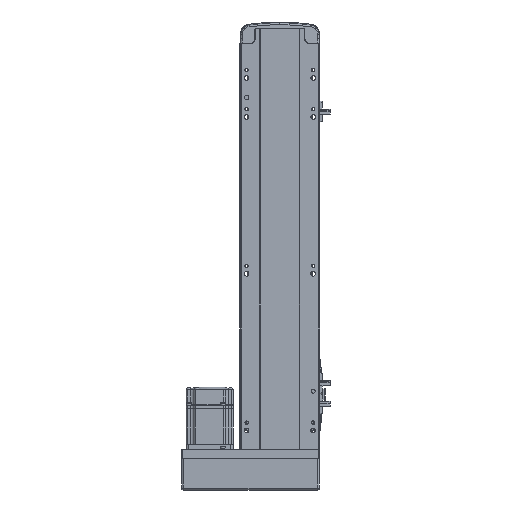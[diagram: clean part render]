
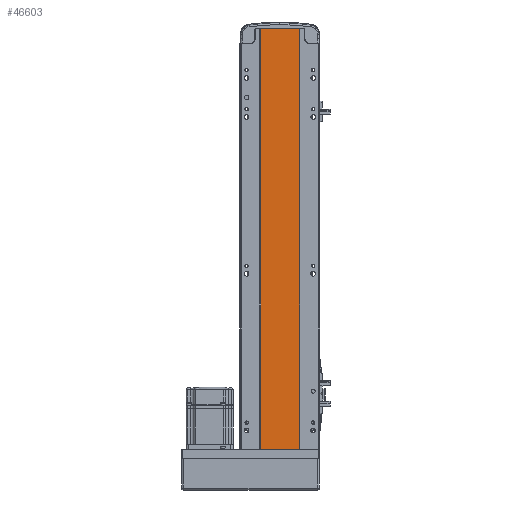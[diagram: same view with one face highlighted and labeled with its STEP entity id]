
A CAD part, front view. The second image highlights one B-rep face of the part: STEP entity #46603.
In plain terms, the highlighted planar face has unit normal (0, -1, 0).
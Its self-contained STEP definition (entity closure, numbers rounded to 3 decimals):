
#90 = VECTOR ( 'NONE', #12212, 1000. ) ;
#142 = CARTESIAN_POINT ( 'NONE',  ( -24.5, 2., 0. ) ) ;
#1950 = ORIENTED_EDGE ( 'NONE', *, *, #40426, .F. ) ;
#4820 = CARTESIAN_POINT ( 'NONE',  ( -24.5, 2., 537. ) ) ;
#5618 = LINE ( 'NONE', #43630, #57740 ) ;
#6573 = LINE ( 'NONE', #23872, #45028 ) ;
#6752 = VERTEX_POINT ( 'NONE', #57614 ) ;
#9568 = VERTEX_POINT ( 'NONE', #25938 ) ;
#12212 = DIRECTION ( 'NONE',  ( 0., 0., -1. ) ) ;
#14225 = EDGE_CURVE ( 'NONE', #56934, #9568, #40341, .T. ) ;
#18369 = CARTESIAN_POINT ( 'NONE',  ( 0., 2., 0. ) ) ;
#22656 = DIRECTION ( 'NONE',  ( 0., 0., 1. ) ) ;
#23872 = CARTESIAN_POINT ( 'NONE',  ( -24.5, 2., 537. ) ) ;
#25938 = CARTESIAN_POINT ( 'NONE',  ( 24.5, 2., 0. ) ) ;
#27869 = CARTESIAN_POINT ( 'NONE',  ( 0., 2., 537. ) ) ;
#27883 = ORIENTED_EDGE ( 'NONE', *, *, #14225, .T. ) ;
#34536 = CARTESIAN_POINT ( 'NONE',  ( 24.5, 2., 537. ) ) ;
#37551 = FACE_OUTER_BOUND ( 'NONE', #47321, .T. ) ;
#37888 = VERTEX_POINT ( 'NONE', #4820 ) ;
#40341 = LINE ( 'NONE', #18369, #46701 ) ;
#40426 = EDGE_CURVE ( 'NONE', #37888, #6752, #5618, .T. ) ;
#40820 = PLANE ( 'NONE',  #41243 ) ;
#41243 = AXIS2_PLACEMENT_3D ( 'NONE', #27869, #49945, #22656 ) ;
#42143 = EDGE_CURVE ( 'NONE', #37888, #56934, #6573, .T. ) ;
#43630 = CARTESIAN_POINT ( 'NONE',  ( -24.5, 2., 537. ) ) ;
#45028 = VECTOR ( 'NONE', #47571, 1000. ) ;
#45694 = DIRECTION ( 'NONE',  ( 1., 0., 0. ) ) ;
#46603 = ADVANCED_FACE ( 'NONE', ( #37551 ), #40820, .F. ) ;
#46701 = VECTOR ( 'NONE', #45694, 1000. ) ;
#47321 = EDGE_LOOP ( 'NONE', ( #27883, #52763, #1950, #53576 ) ) ;
#47571 = DIRECTION ( 'NONE',  ( 0., 0., -1. ) ) ;
#48130 = DIRECTION ( 'NONE',  ( 1., 0., 0. ) ) ;
#49941 = EDGE_CURVE ( 'NONE', #6752, #9568, #58621, .T. ) ;
#49945 = DIRECTION ( 'NONE',  ( 0., 1., 0. ) ) ;
#52763 = ORIENTED_EDGE ( 'NONE', *, *, #49941, .F. ) ;
#53576 = ORIENTED_EDGE ( 'NONE', *, *, #42143, .T. ) ;
#56934 = VERTEX_POINT ( 'NONE', #142 ) ;
#57614 = CARTESIAN_POINT ( 'NONE',  ( 24.5, 2., 537. ) ) ;
#57740 = VECTOR ( 'NONE', #48130, 1000. ) ;
#58621 = LINE ( 'NONE', #34536, #90 ) ;
